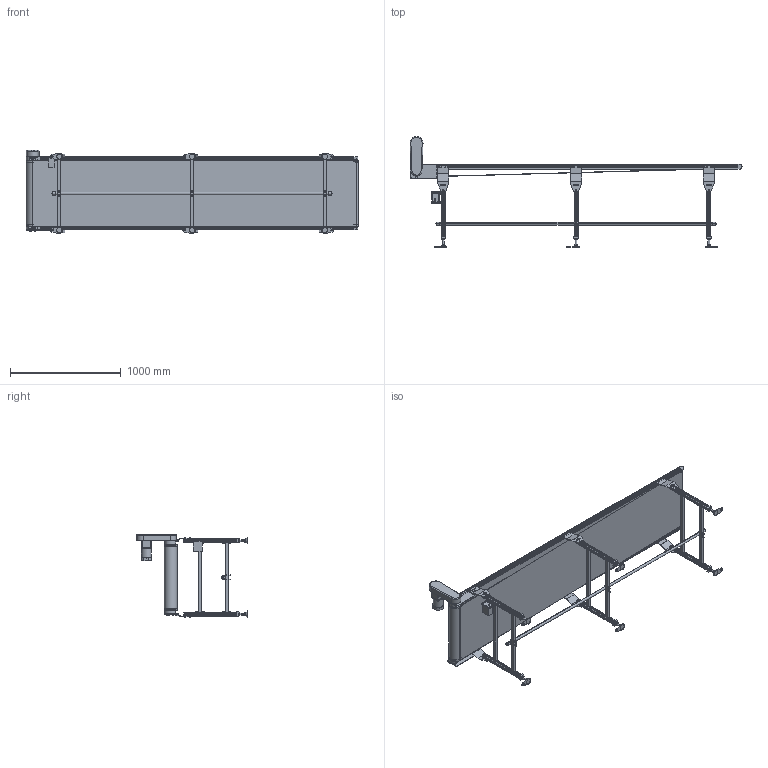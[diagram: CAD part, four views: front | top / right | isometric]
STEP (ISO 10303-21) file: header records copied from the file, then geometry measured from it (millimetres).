
FILE_DESCRIPTION( (''), '2;1');
FILE_NAME ('MB23-OD-309-600-300-L-K-100-O.stp','2025-02-17T10:58:26',(''),(''),'spGate 20.6.2 (****-****-****-****)','','');
FILE_SCHEMA (('AUTOMOTIVE_DESIGN'));
Length unit declared in the file: millimetre
Products named in the file (56): NewModel; MB23-OD-600-3000-L; TEMP_X_T-prt0; TEMP_X_T-prt1; TEMP_X_T-prt2; TEMP_X_T-prt3; TEMP_X_T-prt4; TEMP_X_T-prt5; TEMP_X_T-prt6; TEMP_X_T-prt7; TEMP_X_T-prt8; TEMP_X_T-prt9; TEMP_X_T-prt10; TEMP_X_T-prt11; TEMP_X_T-prt12; TEMP_X_T-prt13; TEMP_X_T-prt14; TEMP_X_T-prt15; TEMP_X_T-prt16; TEMP_X_T-prt17; TEMP_X_T-prt18; TEMP_X_T-prt19; TEMP_X_T-prt20; TEMP_X_T-prt21; TEMP_X_T-prt22; TEMP_X_T-prt23; TEMP_X_T-prt24; TEMP_X_T-prt25; TEMP_X_T-prt26; TEMP_X_T-prt27; TEMP_X_T-prt28; TEMP_X_T-prt29; TEMP_X_T-prt30; TEMP_X_T-prt31; TEMP_X_T-prt32; TEMP_X_T-prt33; TEMP_X_T-prt34; TEMP_X_T-prt35; TEMP_X_T-prt36; TEMP_X_T-prt37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
Assembly tree (55 placements, depth 3):
  NewModel
    MB23-OD-600-3000-L
      TEMP_X_T-prt0
      TEMP_X_T-prt1
      TEMP_X_T-prt2
      TEMP_X_T-prt3
      TEMP_X_T-prt4
      TEMP_X_T-prt5
      TEMP_X_T-prt6
      TEMP_X_T-prt7
      TEMP_X_T-prt8
      TEMP_X_T-prt9
      TEMP_X_T-prt10
      TEMP_X_T-prt11
      TEMP_X_T-prt12
      TEMP_X_T-prt13
      TEMP_X_T-prt14
      TEMP_X_T-prt15
      TEMP_X_T-prt16
      TEMP_X_T-prt17
      TEMP_X_T-prt18
      TEMP_X_T-prt19
      TEMP_X_T-prt20
      TEMP_X_T-prt21
      TEMP_X_T-prt22
      TEMP_X_T-prt23
      TEMP_X_T-prt24
      TEMP_X_T-prt25
      TEMP_X_T-prt26
      TEMP_X_T-prt27
      TEMP_X_T-prt28
      TEMP_X_T-prt29
      TEMP_X_T-prt30
      TEMP_X_T-prt31
      TEMP_X_T-prt32
      TEMP_X_T-prt33
      TEMP_X_T-prt34
      TEMP_X_T-prt35
      TEMP_X_T-prt36
      TEMP_X_T-prt37
      TEMP_X_T-prt38
      TEMP_X_T-prt39
      TEMP_X_T-prt40
      TEMP_X_T-prt41
      TEMP_X_T-prt42
      TEMP_X_T-prt43
      TEMP_X_T-prt44
      TEMP_X_T-prt45
      TEMP_X_T-prt46
      TEMP_X_T-prt47
      TEMP_X_T-prt48
      TEMP_X_T-prt49
      TEMP_X_T-prt50
      TEMP_X_T-prt51
      TEMP_X_T-prt52
      TEMP_X_T-prt53
Bounding box: 3002.15 x 1001.79 x 753.2 mm (x, y, z)
Volume: 28134827.2 mm3; surface area: 14686080.1 mm2
Topology: 54 solids, 54 shells, 2579 faces, 6483 edges, 4190 vertices
Faces by surface type: plane 1816, cylinder 596, bspline 167
Full cylindrical faces by diameter (mm): 38.2 x1
Entity records: 133470 total; most frequent: CARTESIAN_POINT 18358, ORIENTED_EDGE 12942, DIRECTION 12241, COLOUR_RGB 9104, PRESENTATION_STYLE_ASSIGNMENT 9104, STYLED_ITEM 9104, EDGE_CURVE 6471, DRAUGHTING_PRE_DEFINED_CURVE_FONT 6471
